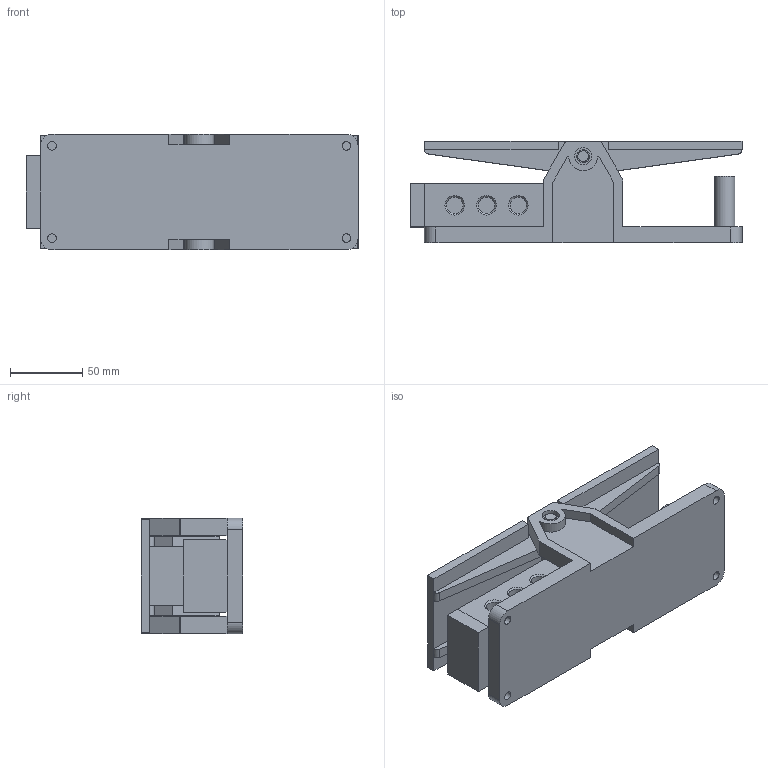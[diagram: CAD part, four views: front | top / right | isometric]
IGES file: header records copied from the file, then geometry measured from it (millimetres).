
Global section: file name: No Iges File Name specified; native system: AutoDesk Inventor R11.0; preprocessor: AutoDesk Inventor Iges Exporter R11.0; author: No Author specified; organization: No Organization specified; date: 20061219.113715; units: millimetre
Bounding box: 230 x 70.5 x 80 mm (x, y, z)
Volume: 559717.7 mm3; surface area: 125140.3 mm2
Topology: 2 solids, 2 shells, 160 faces, 408 edges, 266 vertices
Faces by surface type: plane 68, bspline 63, cylinder 21, revolution 8
